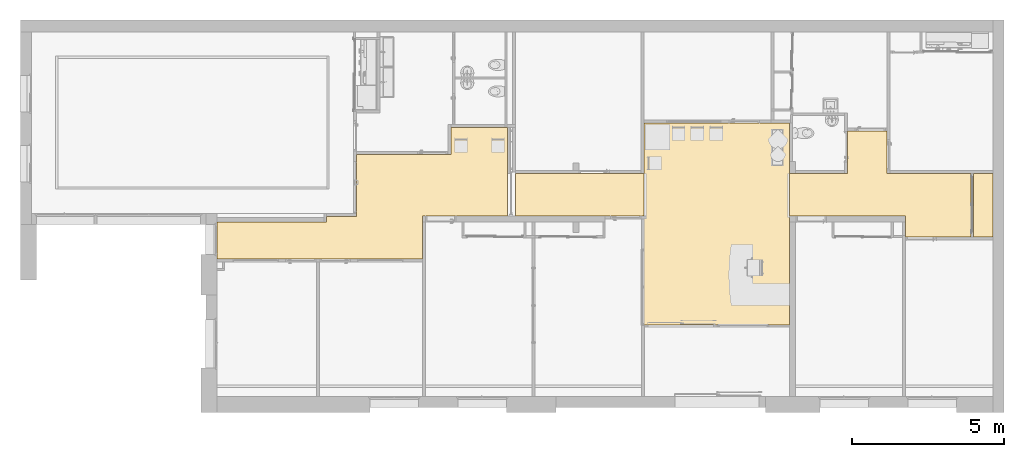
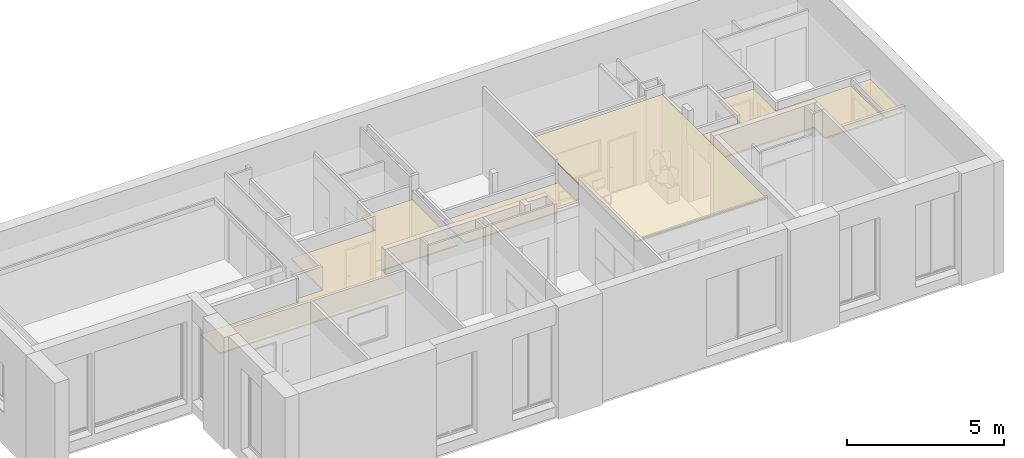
# One storey, part 27 of 32: 2 coverings.
"""IFC2X3 building model written with IfcOpenShell, lengths in metres."""

import ifcopenshell
import ifcopenshell.guid

model = None  # the IFC model being written
_history = None  # IfcOwnerHistory: only IFC2X3 demands one
_inside = {}  # id of a spatial element -> (the spatial element, [elements in it])
_under = {}  # id of a project, library or spatial element -> (it, [spatial elements below it])
_declared = {}  # id of a project -> (the project, [libraries it declares])
_typed = {}  # id of a type object -> (the type object, [elements of that type])
_made_of = {}  # id of a material, layer set ... -> (it, [elements and type objects made of it])


def new_model(schema):
    """Start an empty IFC model of exactly this schema.

    Asked for "IFC4X3", IfcOpenShell would pick the latest addendum, in which some entities
    have other attributes; the version numbers below select the first issue.
    IFC2X3 requires an IfcOwnerHistory on every rooted entity: one is made here for all.
    """
    global model, _history
    if schema == "IFC4X3":
        model = ifcopenshell.file(schema_version=(4, 3, 0, 0))
    else:
        model = ifcopenshell.file(schema=schema)
    _inside.clear()
    _under.clear()
    _declared.clear()
    _typed.clear()
    _made_of.clear()
    _history = None
    if model.schema == "IFC2X3":
        org = make("IfcOrganization", Name="unknown")
        user = make(
            "IfcPersonAndOrganization",
            ThePerson=make("IfcPerson", FamilyName="unknown"),
            TheOrganization=org,
        )
        app = make(
            "IfcApplication",
            ApplicationDeveloper=org,
            Version="unknown",
            ApplicationFullName="unknown",
            ApplicationIdentifier="unknown",
        )
        _history = make(
            "IfcOwnerHistory",
            OwningUser=user,
            OwningApplication=app,
            ChangeAction="ADDED",
            CreationDate=0,
        )
    return model


def make(cls, **values):
    """One entity of the class cls with the attributes given. An attribute that is None is left unset."""
    return model.create_entity(
        cls, **{name: value for name, value in values.items() if value is not None}
    )


def entity(cls, *values):
    """Any entity or typed value of the class cls, its attributes in the order of the schema. None: left unset."""
    e = model.create_entity(cls)
    for i, value in enumerate(values):
        if value is not None:
            e[i] = value
    return e


def rooted(cls, **values):
    """An entity with a GlobalId (a new one), such as an element, a storey or a relation."""
    return make(cls, GlobalId=ifcopenshell.guid.new(), OwnerHistory=_history, **values)


def si_unit(unit_type, name, prefix=None):
    """IfcSIUnit, for example si_unit("LENGTHUNIT", "METRE", prefix="MILLI")."""
    return make("IfcSIUnit", UnitType=unit_type, Prefix=prefix, Name=name)


def converted_unit(unit_type, name, factor, base, dimensions=None, offset=None):
    """IfcConversionBasedUnit, such as the inch: factor (a typed value) times the base unit."""
    return make(
        "IfcConversionBasedUnit"
        if offset is None
        else "IfcConversionBasedUnitWithOffset",
        ConversionOffset=offset,
        Dimensions=None
        if dimensions is None
        else entity("IfcDimensionalExponents", *dimensions),
        UnitType=unit_type,
        Name=name,
        ConversionFactor=make(
            "IfcMeasureWithUnit", ValueComponent=factor, UnitComponent=base
        ),
    )


def derived_unit(unit_type, elements):
    """IfcDerivedUnit: a product of units, each with its exponent."""
    return make(
        "IfcDerivedUnit",
        Elements=[
            make("IfcDerivedUnitElement", Unit=unit, Exponent=power)
            for unit, power in elements
        ],
        UnitType=unit_type,
    )


def assignment(units):
    """IfcUnitAssignment: the units of a project."""
    return None if units is None else make("IfcUnitAssignment", Units=units)


def point(xyz):
    """IfcCartesianPoint."""
    return None if xyz is None else make("IfcCartesianPoint", Coordinates=xyz)


def direction(xyz):
    """IfcDirection."""
    return None if xyz is None else make("IfcDirection", DirectionRatios=xyz)


def frame(location, z_axis=None, x_axis=None):
    """IfcAxis2Placement3D, a coordinate frame: its origin and axes. An axis left out is left unset."""
    return make(
        "IfcAxis2Placement3D",
        Location=point(location),
        Axis=direction(z_axis),
        RefDirection=direction(x_axis),
    )


def frame_2d(location, x_axis=None):
    """IfcAxis2Placement2D, a coordinate frame in the plane: its origin and x axis."""
    return make(
        "IfcAxis2Placement2D", Location=point(location), RefDirection=direction(x_axis)
    )


def origin():
    """The frame at (0, 0, 0) with its axes left unset."""
    return frame((0.0, 0.0, 0.0))


def place(relative_to, where):
    """IfcLocalPlacement: puts the frame where relative to a parent placement (None: the world)."""
    return make(
        "IfcLocalPlacement", PlacementRelTo=relative_to, RelativePlacement=where
    )


def context(
    kind, dimensions, precision=None, world=None, true_north=None, identifier=None
):
    """IfcGeometricRepresentationContext, for example the 3D "Model" context."""
    return make(
        "IfcGeometricRepresentationContext",
        ContextIdentifier=identifier,
        ContextType=kind,
        CoordinateSpaceDimension=dimensions,
        Precision=precision,
        WorldCoordinateSystem=world,
        TrueNorth=true_north,
    )


def subcontext(parent, identifier, kind, view, scale=None):
    """IfcGeometricRepresentationSubContext, for example "Body" below "Model"."""
    return make(
        "IfcGeometricRepresentationSubContext",
        ContextIdentifier=identifier,
        ContextType=kind,
        ParentContext=parent,
        TargetScale=scale,
        TargetView=view,
    )


def project(units=None, contexts=None):
    """IfcProject with its units and contexts."""
    return rooted(
        "IfcProject",
        Name="project",
        RepresentationContexts=contexts,
        UnitsInContext=assignment(units),
    )


def spatial(cls, under=None, at=None, **own):
    """A site, building, storey or space (cls), placed at a placement, below another one or the project."""
    s = rooted(cls, ObjectPlacement=at, **own)
    if under is not None:
        _under.setdefault(under.id(), (under, []))[1].append(s)
    return s


def polyline(points):
    """IfcPolyline through the points."""
    return make("IfcPolyline", Points=[point(p) for p in points])


def profile(cls, at=None, kind="AREA", **sizes):
    """A parametric profile (cls). Its sizes go by their IFC names, for example OverallWidth=200.0."""
    return make(cls, ProfileType=kind, Position=at, **sizes)


def rectangle(**sizes):
    """IfcRectangleProfileDef."""
    return profile("IfcRectangleProfileDef", **sizes)


def outline(outer, holes=None, kind="AREA"):
    """IfcArbitraryClosedProfileDef: a profile drawn as a closed curve; with holes, ...WithVoids."""
    if holes is None:
        return make("IfcArbitraryClosedProfileDef", ProfileType=kind, OuterCurve=outer)
    return make(
        "IfcArbitraryProfileDefWithVoids",
        ProfileType=kind,
        OuterCurve=outer,
        InnerCurves=holes,
    )


def extrude(swept, where, along, depth):
    """IfcExtrudedAreaSolid: the profile swept, set in the frame where, extruded along a direction by depth."""
    return make(
        "IfcExtrudedAreaSolid",
        SweptArea=swept,
        Position=where,
        ExtrudedDirection=direction(along),
        Depth=depth,
    )


def shape(context_of_items, identifier, shape_type, items):
    """IfcShapeRepresentation: the items that make up one representation, for example the "Body"."""
    return make(
        "IfcShapeRepresentation",
        ContextOfItems=context_of_items,
        RepresentationIdentifier=identifier,
        RepresentationType=shape_type,
        Items=items,
    )


def material(Name=None, Category=None):
    """IfcMaterial."""
    return make("IfcMaterial", Name=Name, Category=Category)


def layer(
    of_material, thickness, ventilated=None, Name=None, Category=None, Priority=None
):
    """IfcMaterialLayer: one layer of a wall or slab, of a material (None: an air gap)."""
    return make(
        "IfcMaterialLayer",
        Material=of_material,
        LayerThickness=thickness,
        IsVentilated=ventilated,
        Name=Name,
        Category=Category,
        Priority=Priority,
    )


def layer_set(layers, Name=None):
    """IfcMaterialLayerSet."""
    return make("IfcMaterialLayerSet", MaterialLayers=layers, LayerSetName=Name)


def layer_usage(for_layer_set, set_direction, sense, offset, extent=None):
    """IfcMaterialLayerSetUsage: how a layer set lies in its element."""
    return make(
        "IfcMaterialLayerSetUsage",
        ForLayerSet=for_layer_set,
        LayerSetDirection=set_direction,
        DirectionSense=sense,
        OffsetFromReferenceLine=offset,
        ReferenceExtent=extent,
    )


def made_of(thing, what):
    """Note that an element or type object is made of a material, layer set ...; save() writes the relation."""
    if what is not None:
        _made_of.setdefault(what.id(), (what, []))[1].append(thing)
    return thing


def type_object(cls, material=None, **own):
    """A type object (cls), such as IfcWallType, which elements share."""
    return made_of(rooted(cls, **own), material)


def element(
    cls,
    number,
    at=None,
    inside=None,
    cuts=None,
    type_object=None,
    material=None,
    context=None,
    identifier="Body",
    shape_type=None,
    held_by="IfcProductDefinitionShape",
    body=None,
    shapes=None,
    **own,
):
    """One element of the class cls, such as IfcWall. Its Tag is "e" and its number.

    at: its placement. inside: the storey or other place that contains it. cuts: it is an
    opening in that element (IfcRelVoidsElement). A single representation is given by context,
    identifier, shape_type and body (its items); several are given by shapes. held_by: the class
    of the entity that holds the representations. save() writes the other relations.
    """
    e = rooted(cls, Tag="e%d" % number, ObjectPlacement=at, **own)
    if body is not None:
        shapes = [shape(context, identifier, shape_type, body)]
    if shapes is not None:
        e.Representation = make(held_by, Representations=shapes)
    if inside is not None:
        _inside.setdefault(inside.id(), (inside, []))[1].append(e)
    if cuts is not None:
        rooted(
            "IfcRelVoidsElement", RelatingBuildingElement=cuts, RelatedOpeningElement=e
        )
    if type_object is not None:
        _typed.setdefault(type_object.id(), (type_object, []))[1].append(e)
    return made_of(e, material)


def aggregate(whole, parts):
    """IfcRelAggregates: a whole, such as a stair, and the parts it consists of."""
    return rooted("IfcRelAggregates", RelatingObject=whole, RelatedObjects=parts)


def save(model, path):
    """Write the relations noted so far, then the file.

    IfcRelAggregates (storeys below a building ...), IfcRelContainedInSpatialStructure (elements
    in a storey), IfcRelDefinesByType, IfcRelAssociatesMaterial and IfcRelDeclares: one each for
    every whole, place, type object, material and project.
    """
    for whole, parts in _under.values():
        aggregate(whole, parts)
    for where, things in _inside.values():
        rooted(
            "IfcRelContainedInSpatialStructure",
            RelatedElements=things,
            RelatingStructure=where,
        )
    for kind, things in _typed.values():
        rooted("IfcRelDefinesByType", RelatedObjects=things, RelatingType=kind)
    for what, things in _made_of.values():
        rooted("IfcRelAssociatesMaterial", RelatedObjects=things, RelatingMaterial=what)
    for by, libraries in _declared.values():
        rooted("IfcRelDeclares", RelatingContext=by, RelatedDefinitions=libraries)
    model.write(path)


model = new_model("IFC2X3")

# Units and contexts
model_context = context("Model", 3, precision=1e-05, world=origin(), true_north=direction((6.12303176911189e-17, 1.0)))
plan_context = context("Plan", 3, precision=1e-05, world=origin(), true_north=direction((6.12303176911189e-17, 1.0)))
body_context = subcontext(model_context, "Body", "Model", "MODEL_VIEW")
ifc_project = project(units=[si_unit("LENGTHUNIT", "METRE"), si_unit("AREAUNIT", "SQUARE_METRE"), si_unit("VOLUMEUNIT", "CUBIC_METRE"), converted_unit("PLANEANGLEUNIT", "DEGREE", entity("IfcRatioMeasure", 0.0174532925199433), si_unit("PLANEANGLEUNIT", "RADIAN"), dimensions=[0, 0, 0, 0, 0, 0, 0]), si_unit("MASSUNIT", "GRAM", prefix="KILO"), derived_unit("MASSDENSITYUNIT", [(si_unit("MASSUNIT", "GRAM", prefix="KILO"), 1), (si_unit("LENGTHUNIT", "METRE"), -3)]), derived_unit("MOMENTOFINERTIAUNIT", [(si_unit("LENGTHUNIT", "METRE"), 4)]), si_unit("TIMEUNIT", "SECOND"), si_unit("FREQUENCYUNIT", "HERTZ"), si_unit("THERMODYNAMICTEMPERATUREUNIT", "DEGREE_CELSIUS"), derived_unit("THERMALTRANSMITTANCEUNIT", [(si_unit("MASSUNIT", "GRAM", prefix="KILO"), 1), (si_unit("THERMODYNAMICTEMPERATUREUNIT", "KELVIN"), -1), (si_unit("TIMEUNIT", "SECOND"), -3)]), derived_unit("VOLUMETRICFLOWRATEUNIT", [(si_unit("LENGTHUNIT", "METRE"), 3), (si_unit("TIMEUNIT", "SECOND"), -1)]), si_unit("ELECTRICCURRENTUNIT", "AMPERE"), si_unit("ELECTRICVOLTAGEUNIT", "VOLT"), si_unit("POWERUNIT", "WATT"), si_unit("FORCEUNIT", "NEWTON", prefix="KILO"), si_unit("ILLUMINANCEUNIT", "LUX"), si_unit("LUMINOUSFLUXUNIT", "LUMEN"), si_unit("LUMINOUSINTENSITYUNIT", "CANDELA"), derived_unit("USERDEFINED", [(si_unit("MASSUNIT", "GRAM", prefix="KILO"), -1), (si_unit("LENGTHUNIT", "METRE"), -2), (si_unit("TIMEUNIT", "SECOND"), 3), (si_unit("LUMINOUSFLUXUNIT", "LUMEN"), 1)]), derived_unit("LINEARVELOCITYUNIT", [(si_unit("LENGTHUNIT", "METRE"), 1), (si_unit("TIMEUNIT", "SECOND"), -1)]), si_unit("PRESSUREUNIT", "PASCAL"), derived_unit("USERDEFINED", [(si_unit("LENGTHUNIT", "METRE"), -2), (si_unit("MASSUNIT", "GRAM", prefix="KILO"), 1), (si_unit("TIMEUNIT", "SECOND"), -2)]), derived_unit("LINEARFORCEUNIT", [(si_unit("MASSUNIT", "GRAM", prefix="KILO"), 1), (si_unit("LENGTHUNIT", "METRE"), 1), (si_unit("TIMEUNIT", "SECOND"), -2), (si_unit("LENGTHUNIT", "METRE"), -1)]), derived_unit("PLANARFORCEUNIT", [(si_unit("MASSUNIT", "GRAM", prefix="KILO"), 1), (si_unit("LENGTHUNIT", "METRE"), 1), (si_unit("TIMEUNIT", "SECOND"), -2), (si_unit("LENGTHUNIT", "METRE"), -2)])], contexts=[model_context, plan_context])

# Site, building, storey
site_placement = place(None, origin())
site = spatial("IfcSite", under=ifc_project, at=site_placement, Name="Default", CompositionType="ELEMENT")
building_placement = place(site_placement, origin())
building = spatial("IfcBuilding", under=site, at=building_placement, CompositionType="ELEMENT")
storey_placement = place(building_placement, origin())
storey = spatial("IfcBuildingStorey", under=building, at=storey_placement, Name="0 Mairie RDC 0.00", CompositionType="ELEMENT", Elevation=-1.94916083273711e-14)

# Coverings
ifc_material_1 = material(Name="Vide")
ifc_layer_1 = layer(ifc_material_1, 0.04)
ifc_material_2 = material(Name="Plâtre")
ifc_layer_2 = layer(ifc_material_2, 0.01)
ifc_layer_set = layer_set([ifc_layer_1, ifc_layer_2], Name="Plafond composé:A Plafond plaque de platre ba10")
ifc_layer_usage_1 = layer_usage(ifc_layer_set, "AXIS3", "POSITIVE", 0.0)
covering_type_1 = type_object("IfcCoveringType", Name="Plafonds : Plafond composé : A Plafond plaque de platre ba10", PredefinedType="CEILING")
covering_1_placement = place(storey_placement, frame((-9.70844714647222, -11.6285833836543, 3.15)))
element("IfcCovering", 1, at=covering_1_placement, inside=storey, type_object=covering_type_1, material=ifc_layer_usage_1, Name="Plafonds : Plafond composé : A Plafond plaque de platre ba10", ObjectType="Plafond composé:A Plafond plaque de platre ba10", PredefinedType="CEILING", context=body_context, shape_type="SweptSolid", body=[
    extrude(rectangle(XDim=4.7809504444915, YDim=6.65036796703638, at=frame_2d((-6.66133814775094e-16, 4.44089209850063e-16), x_axis=(1.0, 0.0))), frame((2.39047522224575, 3.32518398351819, 0.0), z_axis=(0.0, 0.0, 1.0), x_axis=(-1.0, 0.0, 0.0)), (0.0, 0.0, 1.0), 0.05),
])
ifc_layer_usage_2 = layer_usage(ifc_layer_set, "AXIS3", "POSITIVE", 0.0)
covering_type_2 = type_object("IfcCoveringType", Name="Plafonds : Plafond composé : A Plafond plaque de platre ba10", PredefinedType="CEILING")
covering_2_placement = place(storey_placement, frame((-23.7782803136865, -9.44907753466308, 2.4)))
element("IfcCovering", 2, at=covering_2_placement, inside=storey, type_object=covering_type_2, material=ifc_layer_usage_2, Name="Plafonds : Plafond composé : A Plafond plaque de platre ba10", ObjectType="Plafond composé:A Plafond plaque de platre ba10", PredefinedType="CEILING", context=body_context, shape_type="SweptSolid", body=[
    extrude(outline(polyline([(-5.6993783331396, -2.02791958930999), (1.07345581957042, -2.02791958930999), (1.07345581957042, -0.611605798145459), (3.87627812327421, -0.61160579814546), (3.87627812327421, 0.74139420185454), (3.8762781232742, 2.30123602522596), (2.01227507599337, 2.30123602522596), (2.01227507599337, 1.40839420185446), (-1.10328035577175, 1.40839420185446), (-1.10328035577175, -0.631602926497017), (-2.09748939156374, -0.631602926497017), (-2.09748939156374, -0.809199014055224), (-5.6993783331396, -0.809199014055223), (-5.6993783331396, -2.02791958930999)])), frame((5.6993783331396, 2.02791958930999, 0.0)), (0.0, 0.0, 1.0), 0.05),
    extrude(rectangle(XDim=0.649714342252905, YDim=2.09732137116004, at=frame_2d((0.0, 5.55111512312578e-16), x_axis=(1.0, 0.0))), frame((25.2310387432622, 1.76663437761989, 0.0), z_axis=(0.0, 0.0, 1.0), x_axis=(-1.0, 0.0, 0.0)), (0.0, 0.0, 1.0), 0.05),
    extrude(rectangle(XDim=4.23832893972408, YDim=1.40022970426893, at=frame_2d((1.11022302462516e-15, 2.16493489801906e-15), x_axis=(1.0, 0.0))), frame((11.9506686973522, 2.11642864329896, 0.0)), (0.0, 0.0, 1.0), 0.05),
    extrude(outline(polyline([(1.07638550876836, -0.421135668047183), (2.98496459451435, -0.421135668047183), (2.98496459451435, 0.98335040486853), (-0.836139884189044, 0.983350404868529), (-0.836139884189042, 1.6761857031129), (-3.00043336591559, 1.6761857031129), (-3.00043336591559, -0.421135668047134), (-0.22477685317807, -0.421135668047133), (-0.22477685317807, -1.81726477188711), (1.07638550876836, -1.81726477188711), (1.07638550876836, -0.421135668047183)])), frame((21.8357482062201, 2.39415939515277, 0.0), z_axis=(0.0, 0.0, 1.0), x_axis=(-1.0, 0.0, 0.0)), (0.0, 0.0, 1.0), 0.05),
])

save(model, "model.ifc")
